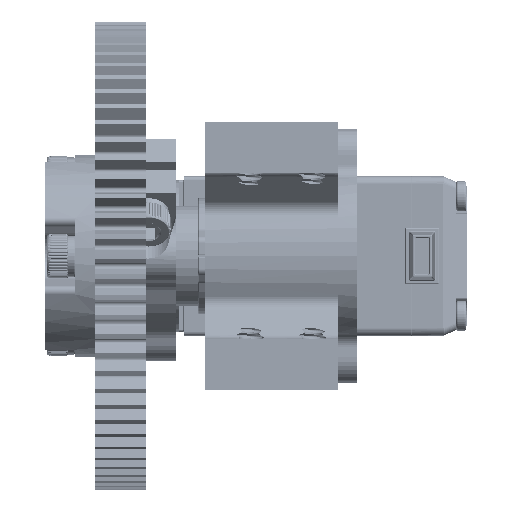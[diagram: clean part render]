
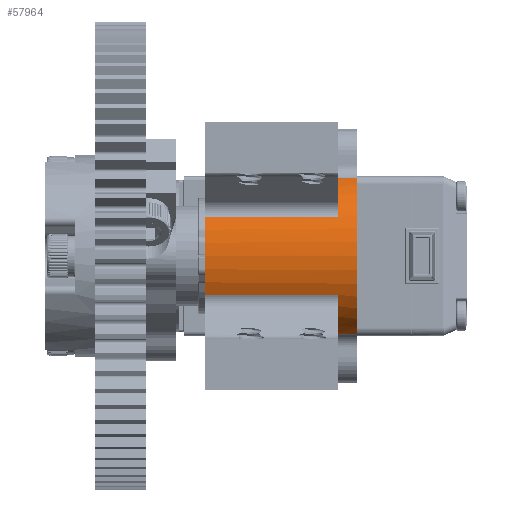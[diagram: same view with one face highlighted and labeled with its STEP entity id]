
A CAD part, left-side view. The second image highlights one B-rep face of the part: STEP entity #57964.
In plain terms, the highlighted cylindrical face has radius 10.735 mm (diameter 21.471 mm), a partial arc.
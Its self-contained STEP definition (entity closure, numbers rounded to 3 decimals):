
#1389 = ORIENTED_EDGE ( 'NONE', *, *, #234787, .F. ) ;
#3271 = CARTESIAN_POINT ( 'NONE',  ( -58.056, 0., -7.841 ) ) ;
#4764 = LINE ( 'NONE', #261144, #75036 ) ;
#5520 = DIRECTION ( 'NONE',  ( 0., 0., -1. ) ) ;
#6765 = CARTESIAN_POINT ( 'NONE',  ( -48.483, 0., -23.435 ) ) ;
#7088 = LINE ( 'NONE', #255993, #235179 ) ;
#10596 = ORIENTED_EDGE ( 'NONE', *, *, #216595, .T. ) ;
#10824 = CIRCLE ( 'NONE', #105709, 10.735 ) ;
#12981 = DIRECTION ( 'NONE',  ( 0., 0., -1. ) ) ;
#15857 = CARTESIAN_POINT ( 'NONE',  ( -48.483, -13.472, -12.7 ) ) ;
#19080 = CARTESIAN_POINT ( 'NONE',  ( -53.314, 3.175, -22.287 ) ) ;
#21762 = ORIENTED_EDGE ( 'NONE', *, *, #135884, .F. ) ;
#23216 = AXIS2_PLACEMENT_3D ( 'NONE', #178359, #243092, #134188 ) ;
#25848 = VERTEX_POINT ( 'NONE', #136010 ) ;
#29264 = CARTESIAN_POINT ( 'NONE',  ( -48.483, -12.7, -1.965 ) ) ;
#29979 = ORIENTED_EDGE ( 'NONE', *, *, #126080, .T. ) ;
#33420 = DIRECTION ( 'NONE',  ( 0., -1., 0. ) ) ;
#33693 = CIRCLE ( 'NONE', #23216, 10.735 ) ;
#36633 = VECTOR ( 'NONE', #122310, 1000. ) ;
#37158 = DIRECTION ( 'NONE',  ( 0., 0., -1. ) ) ;
#42862 = ORIENTED_EDGE ( 'NONE', *, *, #213968, .T. ) ;
#43987 = VECTOR ( 'NONE', #132077, 1000. ) ;
#46930 = EDGE_CURVE ( 'NONE', #82958, #95841, #280382, .T. ) ;
#47332 = DIRECTION ( 'NONE',  ( 0., 1., 0. ) ) ;
#49264 = DIRECTION ( 'NONE',  ( 0., 0., -1. ) ) ;
#50891 = CARTESIAN_POINT ( 'NONE',  ( -58.056, -13.472, -7.841 ) ) ;
#57964 = ADVANCED_FACE ( 'NONE', ( #109399 ), #270941, .T. ) ;
#61765 = VECTOR ( 'NONE', #179727, 1000. ) ;
#71772 = ORIENTED_EDGE ( 'NONE', *, *, #186107, .T. ) ;
#72718 = VERTEX_POINT ( 'NONE', #263394 ) ;
#74970 = DIRECTION ( 'NONE',  ( 0., 1., 0. ) ) ;
#75036 = VECTOR ( 'NONE', #190628, 1000. ) ;
#76658 = DIRECTION ( 'NONE',  ( 0., 0., 1. ) ) ;
#76765 = VERTEX_POINT ( 'NONE', #29264 ) ;
#77223 = EDGE_LOOP ( 'NONE', ( #129315, #42862, #78444, #182551, #163384, #273826, #284607, #94900, #71772, #234591, #29979, #21762, #10596, #251053, #198091, #1389 ) ) ;
#77546 = CARTESIAN_POINT ( 'NONE',  ( -48.483, 3.175, -23.435 ) ) ;
#78444 = ORIENTED_EDGE ( 'NONE', *, *, #152656, .T. ) ;
#79376 = VERTEX_POINT ( 'NONE', #113468 ) ;
#79558 = DIRECTION ( 'NONE',  ( 0., 1., 0. ) ) ;
#80559 = DIRECTION ( 'NONE',  ( 0., 1., 0. ) ) ;
#82958 = VERTEX_POINT ( 'NONE', #256119 ) ;
#85107 = CARTESIAN_POINT ( 'NONE',  ( -53.314, 0., -22.287 ) ) ;
#88134 = EDGE_CURVE ( 'NONE', #144102, #263556, #33693, .T. ) ;
#90877 = DIRECTION ( 'NONE',  ( 0., 1., 0. ) ) ;
#94900 = ORIENTED_EDGE ( 'NONE', *, *, #88134, .F. ) ;
#95841 = VERTEX_POINT ( 'NONE', #238964 ) ;
#96583 = AXIS2_PLACEMENT_3D ( 'NONE', #205133, #47332, #49264 ) ;
#98504 = CARTESIAN_POINT ( 'NONE',  ( -48.483, 0., -12.7 ) ) ;
#99004 = CIRCLE ( 'NONE', #113251, 10.735 ) ;
#99695 = AXIS2_PLACEMENT_3D ( 'NONE', #180066, #90877, #203588 ) ;
#102286 = CARTESIAN_POINT ( 'NONE',  ( -58.056, 3.175, -7.841 ) ) ;
#105709 = AXIS2_PLACEMENT_3D ( 'NONE', #130555, #198201, #205970 ) ;
#107202 = CARTESIAN_POINT ( 'NONE',  ( -53.314, -13.472, -3.113 ) ) ;
#109399 = FACE_OUTER_BOUND ( 'NONE', #77223, .T. ) ;
#110544 = AXIS2_PLACEMENT_3D ( 'NONE', #15857, #80559, #12981 ) ;
#113251 = AXIS2_PLACEMENT_3D ( 'NONE', #274124, #185792, #5520 ) ;
#113468 = CARTESIAN_POINT ( 'NONE',  ( -58.056, -13.472, -17.559 ) ) ;
#115382 = EDGE_CURVE ( 'NONE', #268523, #166601, #198032, .T. ) ;
#122310 = DIRECTION ( 'NONE',  ( 0., 1., 0. ) ) ;
#123482 = AXIS2_PLACEMENT_3D ( 'NONE', #194904, #152736, #37158 ) ;
#126080 = EDGE_CURVE ( 'NONE', #228907, #238527, #135422, .T. ) ;
#126607 = LINE ( 'NONE', #255980, #154739 ) ;
#129315 = ORIENTED_EDGE ( 'NONE', *, *, #115382, .F. ) ;
#130090 = VERTEX_POINT ( 'NONE', #107202 ) ;
#130555 = CARTESIAN_POINT ( 'NONE',  ( -48.483, 3.175, -12.7 ) ) ;
#132077 = DIRECTION ( 'NONE',  ( 0., 1., 0. ) ) ;
#132550 = CARTESIAN_POINT ( 'NONE',  ( -52.789, 0., -2.866 ) ) ;
#132969 = EDGE_CURVE ( 'NONE', #25848, #76765, #231735, .T. ) ;
#133432 = VERTEX_POINT ( 'NONE', #216534 ) ;
#134188 = DIRECTION ( 'NONE',  ( 0., 0., 1. ) ) ;
#135045 = LINE ( 'NONE', #85107, #43987 ) ;
#135422 = LINE ( 'NONE', #3271, #61765 ) ;
#135884 = EDGE_CURVE ( 'NONE', #208738, #238527, #10824, .T. ) ;
#136010 = CARTESIAN_POINT ( 'NONE',  ( -52.789, -12.7, -2.866 ) ) ;
#142333 = VERTEX_POINT ( 'NONE', #19080 ) ;
#143338 = DIRECTION ( 'NONE',  ( 0., -1., 0. ) ) ;
#144102 = VERTEX_POINT ( 'NONE', #213796 ) ;
#145205 = CARTESIAN_POINT ( 'NONE',  ( -48.483, 3.175, -12.7 ) ) ;
#152656 = EDGE_CURVE ( 'NONE', #72718, #95841, #215068, .T. ) ;
#152736 = DIRECTION ( 'NONE',  ( 0., -1., 0. ) ) ;
#154739 = VECTOR ( 'NONE', #33420, 1000. ) ;
#155334 = VECTOR ( 'NONE', #269819, 1000. ) ;
#163384 = ORIENTED_EDGE ( 'NONE', *, *, #197831, .T. ) ;
#165740 = LINE ( 'NONE', #132550, #155334 ) ;
#166601 = VERTEX_POINT ( 'NONE', #77546 ) ;
#174631 = CIRCLE ( 'NONE', #110544, 10.735 ) ;
#178359 = CARTESIAN_POINT ( 'NONE',  ( -48.483, 3.175, -12.7 ) ) ;
#179727 = DIRECTION ( 'NONE',  ( 0., 1., 0. ) ) ;
#180066 = CARTESIAN_POINT ( 'NONE',  ( -48.483, -12.7, -12.7 ) ) ;
#182551 = ORIENTED_EDGE ( 'NONE', *, *, #46930, .F. ) ;
#183508 = VECTOR ( 'NONE', #143338, 1000. ) ;
#185792 = DIRECTION ( 'NONE',  ( 0., 1., 0. ) ) ;
#186107 = EDGE_CURVE ( 'NONE', #144102, #130090, #4764, .T. ) ;
#190628 = DIRECTION ( 'NONE',  ( 0., -1., 0. ) ) ;
#194904 = CARTESIAN_POINT ( 'NONE',  ( -48.483, -15.875, -12.7 ) ) ;
#195215 = EDGE_CURVE ( 'NONE', #133432, #142333, #135045, .T. ) ;
#197831 = EDGE_CURVE ( 'NONE', #82958, #25848, #165740, .T. ) ;
#198032 = LINE ( 'NONE', #6765, #36633 ) ;
#198091 = ORIENTED_EDGE ( 'NONE', *, *, #195215, .T. ) ;
#198201 = DIRECTION ( 'NONE',  ( 0., 1., 0. ) ) ;
#201269 = AXIS2_PLACEMENT_3D ( 'NONE', #145205, #79558, #76658 ) ;
#203588 = DIRECTION ( 'NONE',  ( 0., 0., -1. ) ) ;
#205133 = CARTESIAN_POINT ( 'NONE',  ( -48.483, -12.7, -12.7 ) ) ;
#205970 = DIRECTION ( 'NONE',  ( 0., 0., 1. ) ) ;
#208738 = VERTEX_POINT ( 'NONE', #284973 ) ;
#213446 = EDGE_CURVE ( 'NONE', #133432, #79376, #99004, .T. ) ;
#213796 = CARTESIAN_POINT ( 'NONE',  ( -53.314, 3.175, -3.113 ) ) ;
#213968 = EDGE_CURVE ( 'NONE', #268523, #72718, #288648, .T. ) ;
#215068 = LINE ( 'NONE', #277719, #183508 ) ;
#216534 = CARTESIAN_POINT ( 'NONE',  ( -53.314, -13.472, -22.287 ) ) ;
#216595 = EDGE_CURVE ( 'NONE', #208738, #79376, #126607, .T. ) ;
#228907 = VERTEX_POINT ( 'NONE', #50891 ) ;
#231735 = CIRCLE ( 'NONE', #99695, 10.735 ) ;
#233227 = CARTESIAN_POINT ( 'NONE',  ( -48.483, 3.175, -1.965 ) ) ;
#234591 = ORIENTED_EDGE ( 'NONE', *, *, #253557, .F. ) ;
#234787 = EDGE_CURVE ( 'NONE', #166601, #142333, #242330, .T. ) ;
#235179 = VECTOR ( 'NONE', #258875, 1000. ) ;
#238527 = VERTEX_POINT ( 'NONE', #102286 ) ;
#238964 = CARTESIAN_POINT ( 'NONE',  ( -52.789, -15.875, -22.534 ) ) ;
#239895 = AXIS2_PLACEMENT_3D ( 'NONE', #98504, #74970, #251511 ) ;
#242330 = CIRCLE ( 'NONE', #201269, 10.735 ) ;
#243092 = DIRECTION ( 'NONE',  ( 0., 1., 0. ) ) ;
#251053 = ORIENTED_EDGE ( 'NONE', *, *, #213446, .F. ) ;
#251511 = DIRECTION ( 'NONE',  ( 0., 0., 1. ) ) ;
#253557 = EDGE_CURVE ( 'NONE', #228907, #130090, #174631, .T. ) ;
#255980 = CARTESIAN_POINT ( 'NONE',  ( -58.056, 0., -17.559 ) ) ;
#255993 = CARTESIAN_POINT ( 'NONE',  ( -48.483, 0., -1.965 ) ) ;
#256032 = CARTESIAN_POINT ( 'NONE',  ( -48.483, -12.7, -23.435 ) ) ;
#256119 = CARTESIAN_POINT ( 'NONE',  ( -52.789, -15.875, -2.866 ) ) ;
#258875 = DIRECTION ( 'NONE',  ( 0., 1., 0. ) ) ;
#261143 = EDGE_CURVE ( 'NONE', #76765, #263556, #7088, .T. ) ;
#261144 = CARTESIAN_POINT ( 'NONE',  ( -53.314, 0., -3.113 ) ) ;
#263394 = CARTESIAN_POINT ( 'NONE',  ( -52.789, -12.7, -22.534 ) ) ;
#263556 = VERTEX_POINT ( 'NONE', #233227 ) ;
#268523 = VERTEX_POINT ( 'NONE', #256032 ) ;
#269819 = DIRECTION ( 'NONE',  ( 0., 1., 0. ) ) ;
#270941 = CYLINDRICAL_SURFACE ( 'NONE', #239895, 10.735 ) ;
#273826 = ORIENTED_EDGE ( 'NONE', *, *, #132969, .T. ) ;
#274124 = CARTESIAN_POINT ( 'NONE',  ( -48.483, -13.472, -12.7 ) ) ;
#277719 = CARTESIAN_POINT ( 'NONE',  ( -52.789, 0., -22.534 ) ) ;
#280382 = CIRCLE ( 'NONE', #123482, 10.735 ) ;
#284607 = ORIENTED_EDGE ( 'NONE', *, *, #261143, .T. ) ;
#284973 = CARTESIAN_POINT ( 'NONE',  ( -58.056, 3.175, -17.559 ) ) ;
#288648 = CIRCLE ( 'NONE', #96583, 10.735 ) ;
